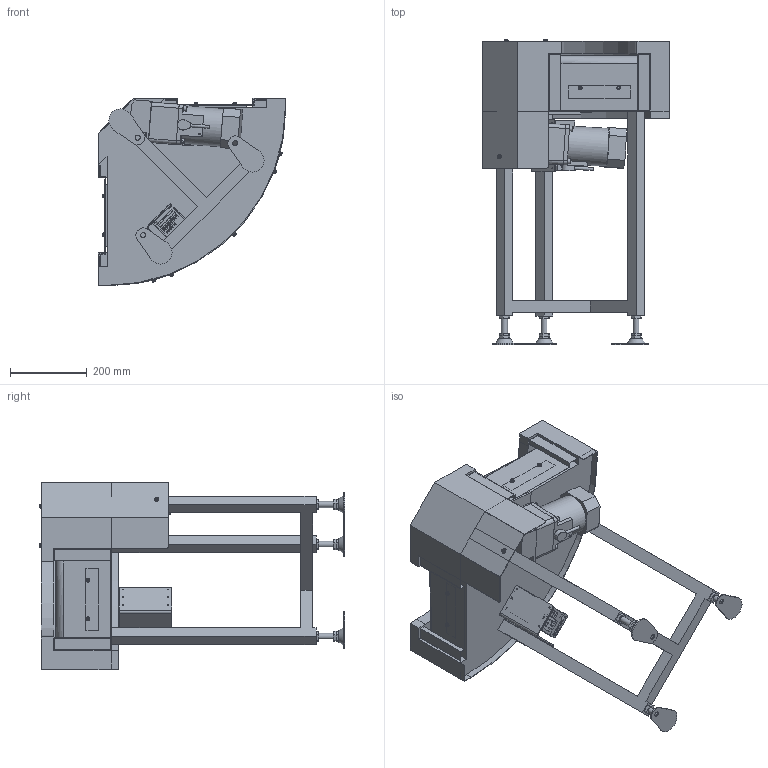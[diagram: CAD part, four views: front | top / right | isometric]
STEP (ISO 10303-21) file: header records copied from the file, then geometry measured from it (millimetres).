
FILE_DESCRIPTION( (''), '2;1');
FILE_NAME ('WEB-MBC2H-UD-320-200-90°-R-IVH-5-O-H.stp','2025-07-31T13:23:15',(''),(''),'spGate 20.6.2 (****-****-****-****)','','');
FILE_SCHEMA (('AUTOMOTIVE_DESIGN'));
Length unit declared in the file: millimetre
Products named in the file (36): WEB-MBC2H-UD-320-200-90_-R-IVH-5-O-H; TEMP_X_T-prt0; TEMP_X_T-prt1; TEMP_X_T-prt2; TEMP_X_T-prt3; TEMP_X_T-prt4; TEMP_X_T-prt5; TEMP_X_T-prt6; TEMP_X_T-prt7; TEMP_X_T-prt8; TEMP_X_T-prt9; TEMP_X_T-prt10; TEMP_X_T-prt11; TEMP_X_T-prt12; TEMP_X_T-prt13; TEMP_X_T-prt14; TEMP_X_T-prt15; TEMP_X_T-prt16; TEMP_X_T-prt17; TEMP_X_T-prt18; TEMP_X_T-prt19; TEMP_X_T-prt20; TEMP_X_T-prt21; TEMP_X_T-prt22; TEMP_X_T-prt23; TEMP_X_T-prt24; TEMP_X_T-prt25; TEMP_X_T-prt26; TEMP_X_T-prt27; TEMP_X_T-prt28; TEMP_X_T-prt29; TEMP_X_T-prt30; TEMP_X_T-prt31; TEMP_X_T-prt32; TEMP_X_T-prt33; TEMP_X_T-prt34
Assembly tree (35 placements, depth 2):
  WEB-MBC2H-UD-320-200-90_-R-IVH-5-O-H
    TEMP_X_T-prt0
    TEMP_X_T-prt1
    TEMP_X_T-prt2
    TEMP_X_T-prt3
    TEMP_X_T-prt4
    TEMP_X_T-prt5
    TEMP_X_T-prt6
    TEMP_X_T-prt7
    TEMP_X_T-prt8
    TEMP_X_T-prt9
    TEMP_X_T-prt10
    TEMP_X_T-prt11
    TEMP_X_T-prt12
    TEMP_X_T-prt13
    TEMP_X_T-prt14
    TEMP_X_T-prt15
    TEMP_X_T-prt16
    TEMP_X_T-prt17
    TEMP_X_T-prt18
    TEMP_X_T-prt19
    TEMP_X_T-prt20
    TEMP_X_T-prt21
    TEMP_X_T-prt22
    TEMP_X_T-prt23
    TEMP_X_T-prt24
    TEMP_X_T-prt25
    TEMP_X_T-prt26
    TEMP_X_T-prt27
    TEMP_X_T-prt28
    TEMP_X_T-prt29
    TEMP_X_T-prt30
    TEMP_X_T-prt31
    TEMP_X_T-prt32
    TEMP_X_T-prt33
    TEMP_X_T-prt34
Bounding box: 488.1 x 794.6 x 488.1 mm (x, y, z)
Volume: 24913618 mm3; surface area: 2090770.4 mm2
Topology: 35 solids, 46 shells, 1521 faces, 3959 edges, 2681 vertices
Faces by surface type: plane 1128, cylinder 253, bspline 138, sphere 2
Full cylindrical faces by diameter (mm): 3.3 x6, 3.5 x12, 3.8 x2, 4 x11, 5 x5, 5.8 x10, 6 x4, 6.4 x7, 6.5 x2, 6.6 x2, 7 x5, 7.5 x1, 7.8 x1, 8 x6, 8.5 x8, 9 x14, 9.2 x12, 10 x16, 12.04 x1, 12.5 x7, 13 x7, 16 x9, 18 x1, 20 x1, 23 x1, 42 x1, 43 x1, 94 x1, 99 x1
Entity records: 84377 total; most frequent: CARTESIAN_POINT 14614, ORIENTED_EDGE 7910, DIRECTION 7375, COLOUR_RGB 5511, PRESENTATION_STYLE_ASSIGNMENT 5511, STYLED_ITEM 5511, EDGE_CURVE 3955, DRAUGHTING_PRE_DEFINED_CURVE_FONT 3955
